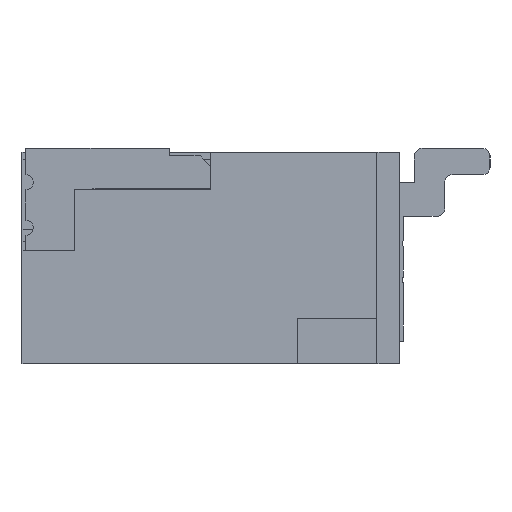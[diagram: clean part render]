
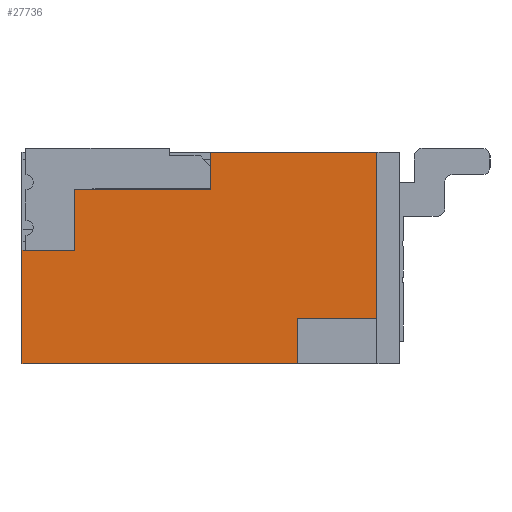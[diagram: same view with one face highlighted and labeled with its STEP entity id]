
A CAD part, left-side view. The second image highlights one B-rep face of the part: STEP entity #27736.
In plain terms, the highlighted planar face has unit normal (-1, 0, 0).
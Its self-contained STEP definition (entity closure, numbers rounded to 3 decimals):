
#4272=DIRECTION('',(0.,0.,1.));
#4273=VECTOR('',#4272,0.6);
#4274=CARTESIAN_POINT('',(3.,-3.65,-2.8));
#4275=LINE('',#4274,#4273);
#4324=DIRECTION('',(0.,0.,1.));
#4325=VECTOR('',#4324,0.5);
#4326=CARTESIAN_POINT('',(3.,-2.5,-0.5));
#4327=LINE('',#4326,#4325);
#4328=DIRECTION('',(0.,-1.,0.));
#4329=VECTOR('',#4328,2.2);
#4330=CARTESIAN_POINT('',(3.,-2.5,0.));
#4331=LINE('',#4330,#4329);
#4332=DIRECTION('',(0.,0.,-1.));
#4333=VECTOR('',#4332,2.2);
#4334=CARTESIAN_POINT('',(3.,-4.7,0.));
#4335=LINE('',#4334,#4333);
#4336=DIRECTION('',(0.,1.,0.));
#4337=VECTOR('',#4336,1.05);
#4338=CARTESIAN_POINT('',(3.,-4.7,-2.2));
#4339=LINE('',#4338,#4337);
#4340=DIRECTION('',(0.,1.,0.));
#4341=VECTOR('',#4340,3.65);
#4342=CARTESIAN_POINT('',(3.,-3.65,-2.8));
#4343=LINE('',#4342,#4341);
#4344=DIRECTION('',(0.,0.,1.));
#4345=VECTOR('',#4344,1.5);
#4346=CARTESIAN_POINT('',(3.,0.,-2.8));
#4347=LINE('',#4346,#4345);
#4348=DIRECTION('',(0.,-1.,0.));
#4349=VECTOR('',#4348,0.7);
#4350=CARTESIAN_POINT('',(3.,0.,-1.3));
#4351=LINE('',#4350,#4349);
#4380=DIRECTION('',(0.,1.,0.));
#4381=VECTOR('',#4380,1.8);
#4382=CARTESIAN_POINT('',(3.,-2.5,-0.5));
#4383=LINE('',#4382,#4381);
#4404=DIRECTION('',(0.,0.,-1.));
#4405=VECTOR('',#4404,0.8);
#4406=CARTESIAN_POINT('',(3.,-0.7,-0.5));
#4407=LINE('',#4406,#4405);
#16661=CARTESIAN_POINT('',(3.,0.,-2.8));
#16663=VERTEX_POINT('',#16661);
#16699=CARTESIAN_POINT('',(3.,0.,-1.3));
#16700=VERTEX_POINT('',#16699);
#16767=CARTESIAN_POINT('',(3.,-3.65,-2.8));
#16768=VERTEX_POINT('',#16767);
#17395=CARTESIAN_POINT('',(3.,-4.7,0.));
#17396=VERTEX_POINT('',#17395);
#17397=CARTESIAN_POINT('',(3.,-2.5,0.));
#17398=VERTEX_POINT('',#17397);
#18111=CARTESIAN_POINT('',(3.,-4.7,-2.2));
#18112=VERTEX_POINT('',#18111);
#18138=CARTESIAN_POINT('',(3.,-3.65,-2.2));
#18140=VERTEX_POINT('',#18138);
#18161=CARTESIAN_POINT('',(3.,-2.5,-0.5));
#18162=VERTEX_POINT('',#18161);
#18163=CARTESIAN_POINT('',(3.,-0.7,-1.3));
#18164=VERTEX_POINT('',#18163);
#18165=CARTESIAN_POINT('',(3.,-0.7,-0.5));
#18166=VERTEX_POINT('',#18165);
#27715=CARTESIAN_POINT('',(3.,0.,0.));
#27716=DIRECTION('',(1.,0.,0.));
#27717=DIRECTION('',(0.,-1.,0.));
#27718=AXIS2_PLACEMENT_3D('',#27715,#27716,#27717);
#27719=PLANE('',#27718);
#27721=ORIENTED_EDGE('',*,*,#27720,.T.);
#27722=ORIENTED_EDGE('',*,*,#22726,.T.);
#27723=ORIENTED_EDGE('',*,*,#27489,.T.);
#27724=ORIENTED_EDGE('',*,*,#27591,.T.);
#27725=ORIENTED_EDGE('',*,*,#27629,.F.);
#27726=ORIENTED_EDGE('',*,*,#22071,.T.);
#27727=ORIENTED_EDGE('',*,*,#21992,.T.);
#27729=ORIENTED_EDGE('',*,*,#27728,.T.);
#27731=ORIENTED_EDGE('',*,*,#27730,.F.);
#27733=ORIENTED_EDGE('',*,*,#27732,.F.);
#27734=EDGE_LOOP('',(#27721,#27722,#27723,#27724,#27725,#27726,#27727,#27729,
#27731,#27733));
#27735=FACE_OUTER_BOUND('',#27734,.F.);
#27736=ADVANCED_FACE('',(#27735),#27719,.F.);
#21992=EDGE_CURVE('',#16663,#16700,#4347,.T.);
#22071=EDGE_CURVE('',#16768,#16663,#4343,.T.);
#22726=EDGE_CURVE('',#17398,#17396,#4331,.T.);
#27489=EDGE_CURVE('',#17396,#18112,#4335,.T.);
#27591=EDGE_CURVE('',#18112,#18140,#4339,.T.);
#27629=EDGE_CURVE('',#16768,#18140,#4275,.T.);
#27720=EDGE_CURVE('',#18162,#17398,#4327,.T.);
#27728=EDGE_CURVE('',#16700,#18164,#4351,.T.);
#27730=EDGE_CURVE('',#18166,#18164,#4407,.T.);
#27732=EDGE_CURVE('',#18162,#18166,#4383,.T.);
